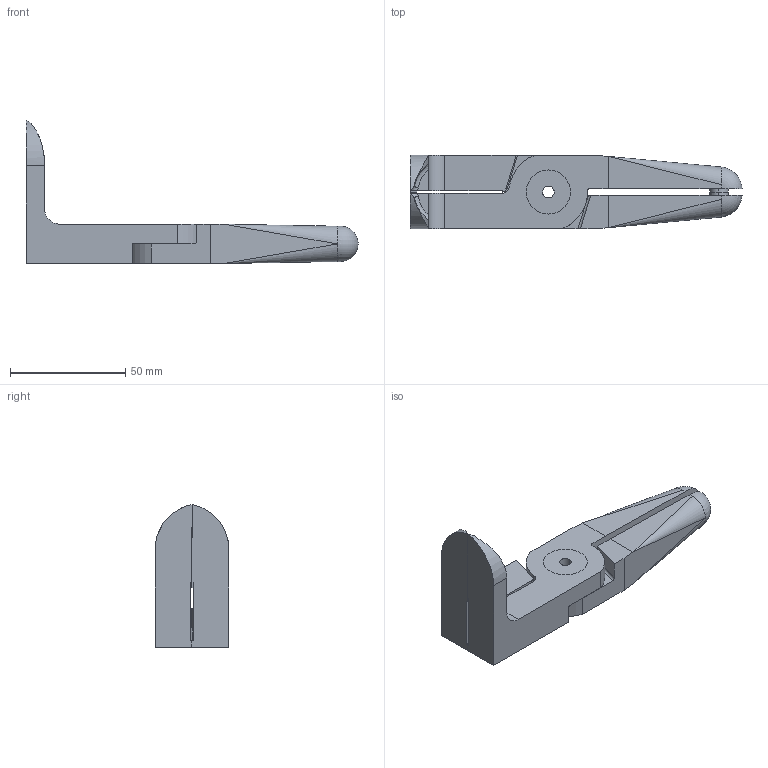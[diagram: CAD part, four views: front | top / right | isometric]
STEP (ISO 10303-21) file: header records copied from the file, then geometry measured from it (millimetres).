
FILE_DESCRIPTION (( 'STEP AP214' ), '1' );
FILE_NAME ('N30AL525.STEP', '2019-11-29T08:45:49', ( '微软用户' ), ( '微软中国' ), 'SwSTEP 2.0', 'SolidWorks 2016', '' );
FILE_SCHEMA (( 'AUTOMOTIVE_DESIGN' ));
Length unit declared in the file: millimetre
Products named in the file (4): BR2; BR1; BS; N30AL525
Assembly tree (3 placements, depth 2):
  N30AL525
    BS
    BR1
    BR2
Bounding box: 143.99 x 32 x 62 mm (x, y, z)
Volume: 69667.5 mm3; surface area: 24299.9 mm2
Topology: 3 solids, 3 shells, 111 faces, 303 edges, 190 vertices
Faces by surface type: plane 48, bspline 38, cylinder 17, cone 8
Entity records: 7060 total; most frequent: CARTESIAN_POINT 4475, ORIENTED_EDGE 582, DIRECTION 397, EDGE_CURVE 291, VERTEX_POINT 190, VECTOR 171, LINE 171, EDGE_LOOP 121
